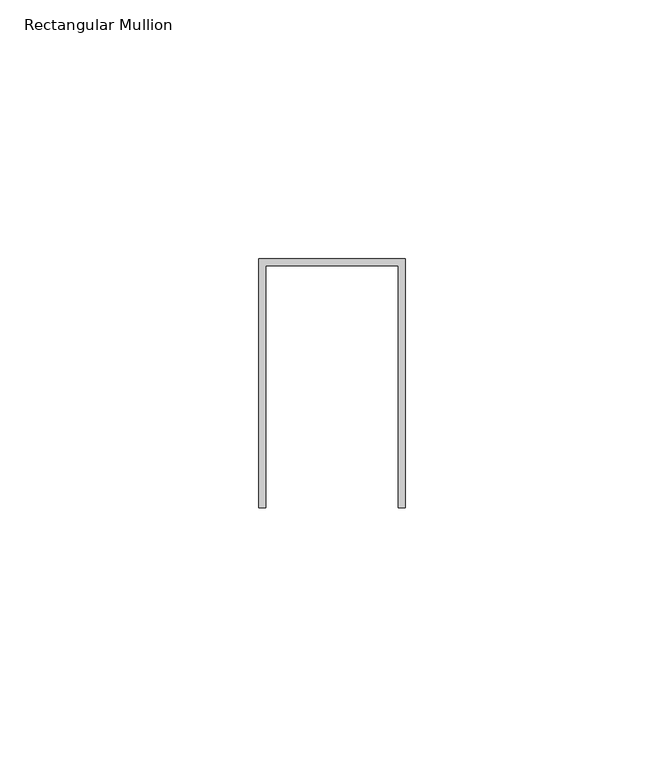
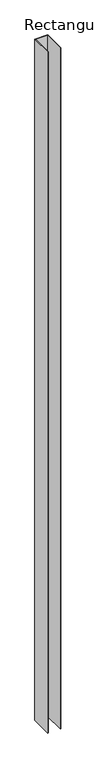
"""IFC4 building model written with IfcOpenShell, lengths in millimetres: member geometry, Rectangular Mullion : Danpal_TP_Interal-Ver-Mullion."""

from ifc_helpers import new_model, si_unit, frame, origin, place, context, project, spatial, polyline, outline, extrude, source, transform, mapped, element, save


def rectangular_mullion_7864b501(model_context):
    return source(origin(), model_context, "Body", "SweptSolid", [
        extrude(outline(polyline([(12.3125928, 62.8367315), (-13.3125928, 62.8367315), (-13.3125928, 16.0043433), (-14.6380334, 16.0043036), (-14.6380334, 64.1621721), (13.6380334, 64.1621721), (13.6380334, 16.0044958), (12.3125928, 16.0044958), (12.3125928, 62.8367315)])), frame((0.0, 0.0, -1567.1294372), z_axis=(0.0, 0.0, 1.0), x_axis=(1.0, 0.0, 0.0)), (0.0, 0.0, 1.0), 1567.1294372),
    ])


if __name__ == "__main__":
    model = new_model("IFC4")
    model_context = context("Model", 3, world=origin())
    ifc_project = project(units=[si_unit("LENGTHUNIT", "METRE", prefix="MILLI")], contexts=[model_context])
    site = spatial("IfcSite", under=ifc_project)
    building = spatial("IfcBuilding", under=site)
    placement = place(None, origin())
    rectangular_mullion_shape = rectangular_mullion_7864b501(model_context)
    element("IfcMember", 1, ObjectType="Rectangular Mullion : Danpal_TP_Interal-Ver-Mullion", at=placement, inside=building, context=model_context, shape_type="MappedRepresentation", body=[
        mapped(rectangular_mullion_shape, transform((0.0, 0.0, 0.0), x_axis=(1.0, 0.0, 0.0), y_axis=(0.0, 1.0, 0.0), z_axis=(0.0, 0.0, 1.0))),
    ])
    save(model, "model.ifc")
